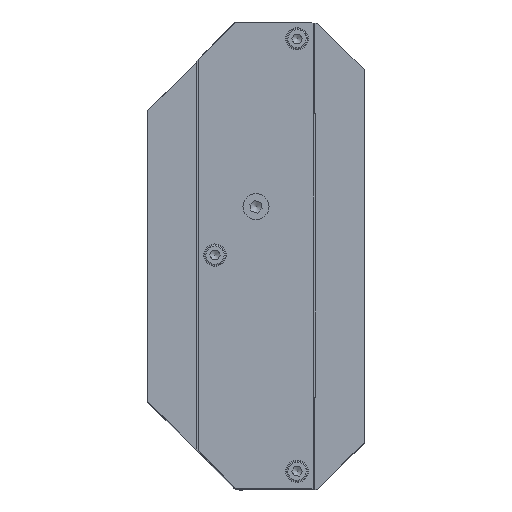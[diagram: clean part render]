
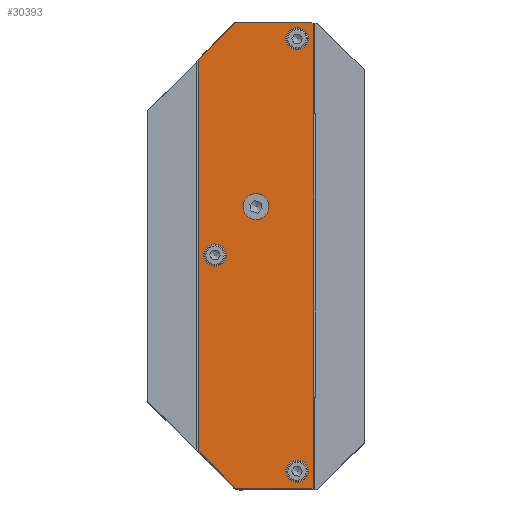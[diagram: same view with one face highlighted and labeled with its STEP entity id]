
A CAD part, top view. The second image highlights one B-rep face of the part: STEP entity #30393.
In plain terms, the highlighted planar face has unit normal (0, 0, 1).
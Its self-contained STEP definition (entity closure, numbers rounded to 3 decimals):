
#30278=CARTESIAN_POINT('',(16.743,0.,-4.255));
#30279=DIRECTION('',(0.0,0.0,1.0));
#30280=DIRECTION('',(0.0,-1.0,0.0));
#30281=AXIS2_PLACEMENT_3D('',#30278,#30279,#30280);
#30282=PLANE('',#30281);
#30283=CARTESIAN_POINT('',(31.5,-62.,-4.255));
#30284=VERTEX_POINT('',#30283);
#30285=CARTESIAN_POINT('',(31.,-62.5,-4.255));
#30286=VERTEX_POINT('',#30285);
#30287=CARTESIAN_POINT('',(31.5,-62.,-4.255));
#30288=DIRECTION('',(-0.707,-0.707,0.));
#30289=VECTOR('',#30288,0.707);
#30290=LINE('',#30287,#30289);
#30291=EDGE_CURVE('',#30284,#30286,#30290,.T.);
#30292=ORIENTED_EDGE('',*,*,#30291,.F.);
#30293=CARTESIAN_POINT('',(31.5,62.,-4.255));
#30294=VERTEX_POINT('',#30293);
#30295=CARTESIAN_POINT('',(31.5,62.,-4.255));
#30296=DIRECTION('',(0.0,-1.0,0.0));
#30297=VECTOR('',#30296,124.0);
#30298=LINE('',#30295,#30297);
#30299=EDGE_CURVE('',#30294,#30284,#30298,.T.);
#30300=ORIENTED_EDGE('',*,*,#30299,.F.);
#30301=CARTESIAN_POINT('',(31.,62.5,-4.255));
#30302=VERTEX_POINT('',#30301);
#30303=CARTESIAN_POINT('',(31.0,62.5,-4.255));
#30304=DIRECTION('',(0.707,-0.707,0.));
#30305=VECTOR('',#30304,0.707);
#30306=LINE('',#30303,#30305);
#30307=EDGE_CURVE('',#30302,#30294,#30306,.T.);
#30308=ORIENTED_EDGE('',*,*,#30307,.F.);
#30309=CARTESIAN_POINT('',(10.5,62.5,-4.255));
#30310=VERTEX_POINT('',#30309);
#30311=CARTESIAN_POINT('',(10.5,62.5,-4.255));
#30312=DIRECTION('',(1.0,0.0,0.0));
#30313=VECTOR('',#30312,20.5);
#30314=LINE('',#30311,#30313);
#30315=EDGE_CURVE('',#30310,#30302,#30314,.T.);
#30316=ORIENTED_EDGE('',*,*,#30315,.F.);
#30317=CARTESIAN_POINT('',(0.5,52.5,-4.255));
#30318=VERTEX_POINT('',#30317);
#30319=CARTESIAN_POINT('',(0.5,52.5,-4.255));
#30320=DIRECTION('',(0.707,0.707,0.));
#30321=VECTOR('',#30320,14.142);
#30322=LINE('',#30319,#30321);
#30323=EDGE_CURVE('',#30318,#30310,#30322,.T.);
#30324=ORIENTED_EDGE('',*,*,#30323,.F.);
#30325=CARTESIAN_POINT('',(0.5,-52.5,-4.255));
#30326=VERTEX_POINT('',#30325);
#30327=CARTESIAN_POINT('',(0.5,-52.5,-4.255));
#30328=DIRECTION('',(0.0,1.0,0.0));
#30329=VECTOR('',#30328,105.);
#30330=LINE('',#30327,#30329);
#30331=EDGE_CURVE('',#30326,#30318,#30330,.T.);
#30332=ORIENTED_EDGE('',*,*,#30331,.F.);
#30333=CARTESIAN_POINT('',(10.5,-62.5,-4.255));
#30334=VERTEX_POINT('',#30333);
#30335=CARTESIAN_POINT('',(10.5,-62.5,-4.255));
#30336=DIRECTION('',(-0.707,0.707,0.));
#30337=VECTOR('',#30336,14.142);
#30338=LINE('',#30335,#30337);
#30339=EDGE_CURVE('',#30334,#30326,#30338,.T.);
#30340=ORIENTED_EDGE('',*,*,#30339,.F.);
#30341=CARTESIAN_POINT('',(31.,-62.5,-4.255));
#30342=DIRECTION('',(-1.0,0.0,0.0));
#30343=VECTOR('',#30342,20.5);
#30344=LINE('',#30341,#30343);
#30345=EDGE_CURVE('',#30286,#30334,#30344,.T.);
#30346=ORIENTED_EDGE('',*,*,#30345,.F.);
#30347=EDGE_LOOP('',(#30292,#30300,#30308,#30316,#30324,#30332,#30340,#30346));
#30348=FACE_OUTER_BOUND('',#30347,.T.);
#30349=CARTESIAN_POINT('',(16.,9.5,-4.255));
#30350=VERTEX_POINT('',#30349);
#30351=CARTESIAN_POINT('',(16.,13.,-4.255));
#30352=DIRECTION('',(0.0,0.0,-1.0));
#30353=DIRECTION('',(0.0,1.0,0.0));
#30354=AXIS2_PLACEMENT_3D('',#30351,#30352,#30353);
#30355=CIRCLE('',#30354,3.5);
#30356=EDGE_CURVE('',#30350,#30350,#30355,.T.);
#30357=ORIENTED_EDGE('',*,*,#30356,.T.);
#30358=EDGE_LOOP('',(#30357));
#30359=FACE_BOUND('',#30358,.T.);
#30360=CARTESIAN_POINT('',(5.,-3.,-4.255));
#30361=VERTEX_POINT('',#30360);
#30362=CARTESIAN_POINT('',(5.,0.,-4.255));
#30363=DIRECTION('',(0.0,0.0,-1.0));
#30364=DIRECTION('',(0.0,-1.0,0.0));
#30365=AXIS2_PLACEMENT_3D('',#30362,#30363,#30364);
#30366=CIRCLE('',#30365,3.);
#30367=EDGE_CURVE('',#30361,#30361,#30366,.T.);
#30368=ORIENTED_EDGE('',*,*,#30367,.T.);
#30369=EDGE_LOOP('',(#30368));
#30370=FACE_BOUND('',#30369,.T.);
#30371=CARTESIAN_POINT('',(27.,-61.,-4.255));
#30372=VERTEX_POINT('',#30371);
#30373=CARTESIAN_POINT('',(27.,-58.,-4.255));
#30374=DIRECTION('',(0.0,0.0,-1.0));
#30375=DIRECTION('',(0.0,-1.0,0.0));
#30376=AXIS2_PLACEMENT_3D('',#30373,#30374,#30375);
#30377=CIRCLE('',#30376,3.);
#30378=EDGE_CURVE('',#30372,#30372,#30377,.T.);
#30379=ORIENTED_EDGE('',*,*,#30378,.T.);
#30380=EDGE_LOOP('',(#30379));
#30381=FACE_BOUND('',#30380,.T.);
#30382=CARTESIAN_POINT('',(27.,55.,-4.255));
#30383=VERTEX_POINT('',#30382);
#30384=CARTESIAN_POINT('',(27.,58.,-4.255));
#30385=DIRECTION('',(0.0,0.0,-1.0));
#30386=DIRECTION('',(0.0,-1.0,0.0));
#30387=AXIS2_PLACEMENT_3D('',#30384,#30385,#30386);
#30388=CIRCLE('',#30387,3.);
#30389=EDGE_CURVE('',#30383,#30383,#30388,.T.);
#30390=ORIENTED_EDGE('',*,*,#30389,.T.);
#30391=EDGE_LOOP('',(#30390));
#30392=FACE_BOUND('',#30391,.T.);
#30393=ADVANCED_FACE('',(#30348,#30359,#30370,#30381,#30392),#30282,.T.);
